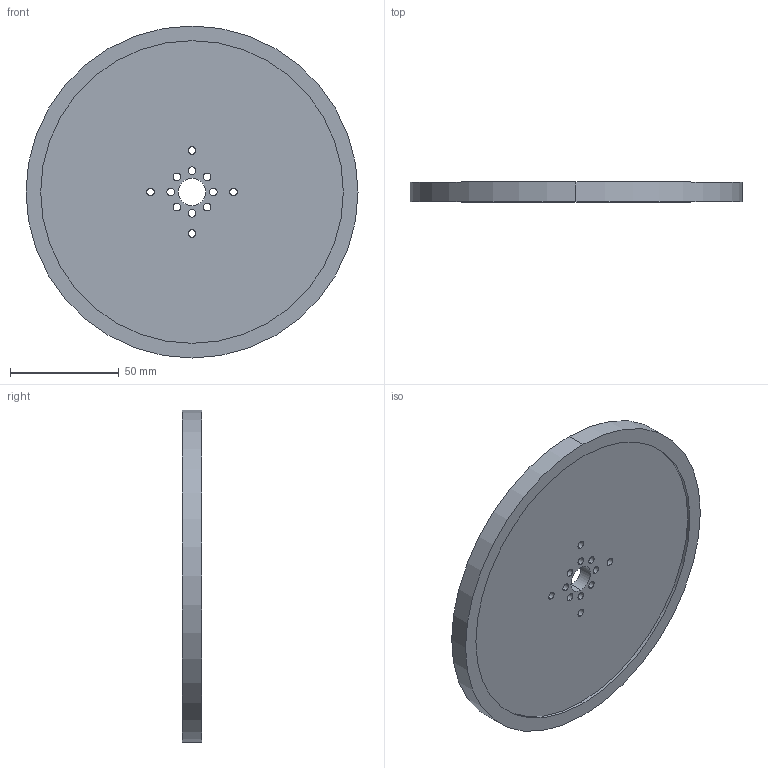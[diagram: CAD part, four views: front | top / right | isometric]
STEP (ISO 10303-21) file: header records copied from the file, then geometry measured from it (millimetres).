
FILE_DESCRIPTION (( 'STEP AP203' ), '1' );
FILE_NAME ('595800 assembly.STEP', '2016-08-29T14:42:50', ( '' ), ( '' ), 'SwSTEP 2.0', 'SolidWorks 2014', '' );
FILE_SCHEMA (( 'CONFIG_CONTROL_DESIGN' ));
Length unit declared in the file: inch
Products named in the file (3): 636110 for 6in ABS disk wheel; 595800 wheel; 595800 assembly
Assembly tree (2 placements, depth 2):
  595800 assembly
    595800 wheel
    636110 for 6in ABS disk wheel
Bounding box: 152.4 x 8.99 x 152.4 mm (x, y, z)
Volume: 119378.4 mm3; surface area: 57931.4 mm2
Topology: 2 solids, 2 shells, 42 faces, 108 edges, 72 vertices
Faces by surface type: cylinder 36, plane 6
Entity records: 1691 total; most frequent: DIRECTION 274, CARTESIAN_POINT 227, ORIENTED_EDGE 216, AXIS2_PLACEMENT_3D 119, EDGE_CURVE 108, CIRCLE 72, VERTEX_POINT 72, EDGE_LOOP 72
